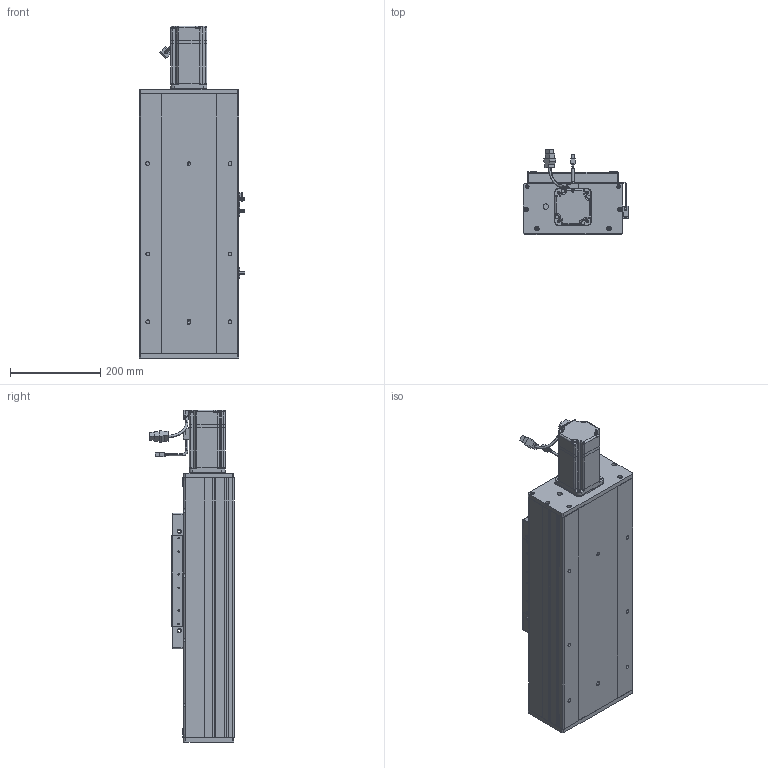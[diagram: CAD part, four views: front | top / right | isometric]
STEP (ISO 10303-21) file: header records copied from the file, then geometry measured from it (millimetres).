
FILE_DESCRIPTION (( 'STEP AP203' ), '1' );
FILE_NAME ('RY220F-L2525-300-MK.SLDASM_150.step', '2022-07-04T01:03:06', ( '' ), ( '' ), 'SwSTEP 2.0', 'SolidWorks 2016', '' );
FILE_SCHEMA (( 'CONFIG_CONTROL_DESIGN' ));
Length unit declared in the file: millimetre
Products named in the file (15): RY220F-祥凄詩湍-MK-300_150; 覜茼ん672; 滅袉蝶18-20; RY220F-詩湍揤踡輸; RY220F菁釱MK-300_150; RY220电机支撑座FK20（PCD90M6）; RY220F-L2525-300-MK.SLDASM_150; RY220F綴裔啣; 滅袉蝶18-24; RY220F-奻裔啣-300_150; RY220F臏賑釱25-32佪裝; RY220F-滅鳥奻裔; RY220Fヶ裔啣; RY220F-672覜茼んえ; 怢湛750W_ECMA-CX0807ES
Assembly tree (20 placements, depth 2):
  RY220F-L2525-300-MK.SLDASM_150
    RY220F菁釱MK-300_150
    RY220电机支撑座FK20（PCD90M6）
    RY220F-奻裔啣-300_150  x2
    怢湛750W_ECMA-CX0807ES
    RY220F臏賑釱25-32佪裝
    RY220F-滅鳥奻裔
    滅袉蝶18-20
    滅袉蝶18-24  x3
    RY220Fヶ裔啣
    RY220F綴裔啣
    RY220F-祥凄詩湍-MK-300_150
    RY220F-詩湍揤踡輸  x2
    覜茼ん672  x3
    RY220F-672覜茼んえ
Bounding box: 233.7 x 187.27 x 734.3 mm (x, y, z)
Volume: 7429301.9 mm3; surface area: 1734483.9 mm2
Topology: 21 solids, 21 shells, 2112 faces, 5818 edges, 3668 vertices
Faces by surface type: cylinder 936, plane 874, cone 243, bspline 33, sphere 16, torus 10
Entity records: 65022 total; most frequent: CARTESIAN_POINT 17855, ORIENTED_EDGE 9626, DIRECTION 9212, EDGE_CURVE 4813, AXIS2_PLACEMENT_3D 3244, VERTEX_POINT 3134, VECTOR 2724, LINE 2724
